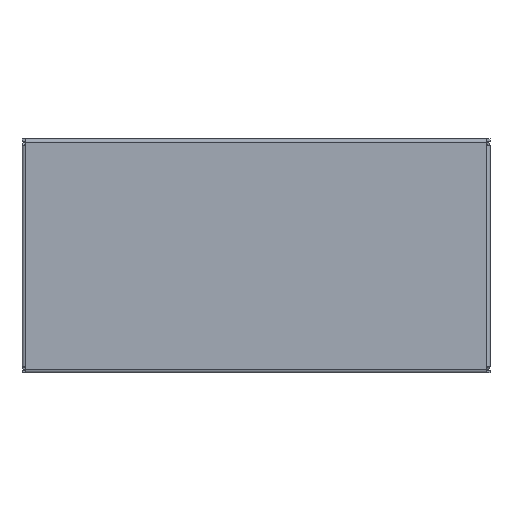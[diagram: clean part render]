
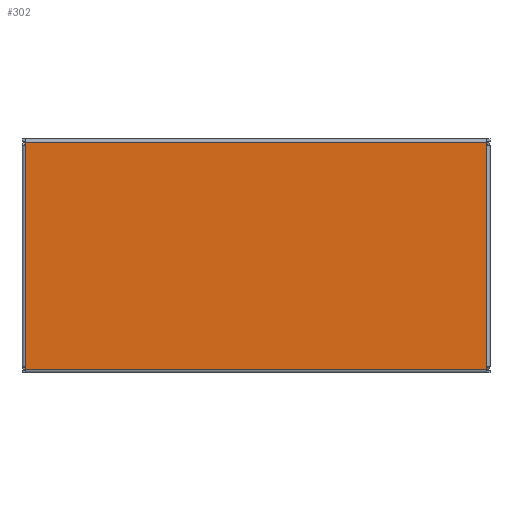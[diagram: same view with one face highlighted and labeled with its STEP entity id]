
A CAD part, front view. The second image highlights one B-rep face of the part: STEP entity #302.
In plain terms, the highlighted planar face has unit normal (0, -1, 0) as drawn and (0, 0, -1) by its records, which use the part's own axes.
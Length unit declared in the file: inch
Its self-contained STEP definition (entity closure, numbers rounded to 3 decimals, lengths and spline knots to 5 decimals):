
#231=CARTESIAN_POINT('',(-2.0,-4.0,0.0));
#232=DIRECTION('',(0.0,0.0,1.0));
#233=DIRECTION('',(1.0,0.0,0.0));
#234=AXIS2_PLACEMENT_3D('',#231,#232,#233);
#235=PLANE('',#234);
#236=CARTESIAN_POINT('',(1.946,3.946,0.0));
#237=VERTEX_POINT('',#236);
#238=CARTESIAN_POINT('',(1.946,-3.946,0.0));
#239=VERTEX_POINT('',#238);
#240=CARTESIAN_POINT('',(1.946,3.946,0.0));
#241=DIRECTION('',(0.0,-1.0,0.0));
#242=VECTOR('',#241,7.892);
#243=LINE('',#240,#242);
#244=EDGE_CURVE('',#237,#239,#243,.T.);
#245=ORIENTED_EDGE('',*,*,#244,.T.);
#246=CARTESIAN_POINT('',(1.892,-3.946,0.0));
#247=VERTEX_POINT('',#246);
#248=CARTESIAN_POINT('',(1.946,-3.946,0.0));
#249=DIRECTION('',(-1.0,0.0,0.0));
#250=VECTOR('',#249,0.054);
#251=LINE('',#248,#250);
#252=EDGE_CURVE('',#239,#247,#251,.T.);
#253=ORIENTED_EDGE('',*,*,#252,.T.);
#254=CARTESIAN_POINT('',(-1.892,-3.946,0.0));
#255=VERTEX_POINT('',#254);
#256=CARTESIAN_POINT('',(1.892,-3.946,0.0));
#257=DIRECTION('',(-1.0,0.0,0.0));
#258=VECTOR('',#257,3.784);
#259=LINE('',#256,#258);
#260=EDGE_CURVE('',#247,#255,#259,.T.);
#261=ORIENTED_EDGE('',*,*,#260,.T.);
#262=CARTESIAN_POINT('',(-1.946,-3.946,0.0));
#263=VERTEX_POINT('',#262);
#264=CARTESIAN_POINT('',(-1.892,-3.946,0.0));
#265=DIRECTION('',(-1.0,0.0,0.0));
#266=VECTOR('',#265,0.054);
#267=LINE('',#264,#266);
#268=EDGE_CURVE('',#255,#263,#267,.T.);
#269=ORIENTED_EDGE('',*,*,#268,.T.);
#270=CARTESIAN_POINT('',(-1.946,3.946,0.0));
#271=VERTEX_POINT('',#270);
#272=CARTESIAN_POINT('',(-1.946,-3.946,0.0));
#273=DIRECTION('',(0.0,1.0,0.0));
#274=VECTOR('',#273,7.892);
#275=LINE('',#272,#274);
#276=EDGE_CURVE('',#263,#271,#275,.T.);
#277=ORIENTED_EDGE('',*,*,#276,.T.);
#278=CARTESIAN_POINT('',(-1.892,3.946,0.0));
#279=VERTEX_POINT('',#278);
#280=CARTESIAN_POINT('',(-1.946,3.946,0.0));
#281=DIRECTION('',(1.0,0.0,0.0));
#282=VECTOR('',#281,0.054);
#283=LINE('',#280,#282);
#284=EDGE_CURVE('',#271,#279,#283,.T.);
#285=ORIENTED_EDGE('',*,*,#284,.T.);
#286=CARTESIAN_POINT('',(1.892,3.946,0.0));
#287=VERTEX_POINT('',#286);
#288=CARTESIAN_POINT('',(-1.892,3.946,0.0));
#289=DIRECTION('',(1.0,0.0,0.0));
#290=VECTOR('',#289,3.784);
#291=LINE('',#288,#290);
#292=EDGE_CURVE('',#279,#287,#291,.T.);
#293=ORIENTED_EDGE('',*,*,#292,.T.);
#294=CARTESIAN_POINT('',(1.892,3.946,0.0));
#295=DIRECTION('',(1.0,0.0,0.0));
#296=VECTOR('',#295,0.054);
#297=LINE('',#294,#296);
#298=EDGE_CURVE('',#287,#237,#297,.T.);
#299=ORIENTED_EDGE('',*,*,#298,.T.);
#300=EDGE_LOOP('',(#245,#253,#261,#269,#277,#285,#293,#299));
#301=FACE_OUTER_BOUND('',#300,.T.);
#302=ADVANCED_FACE('',(#301),#235,.F.);
